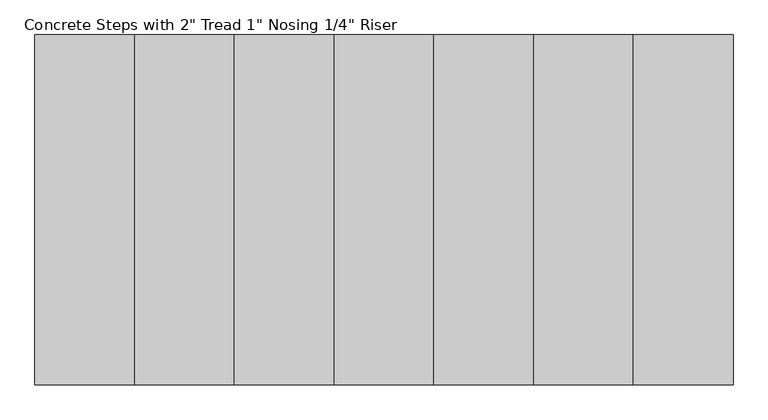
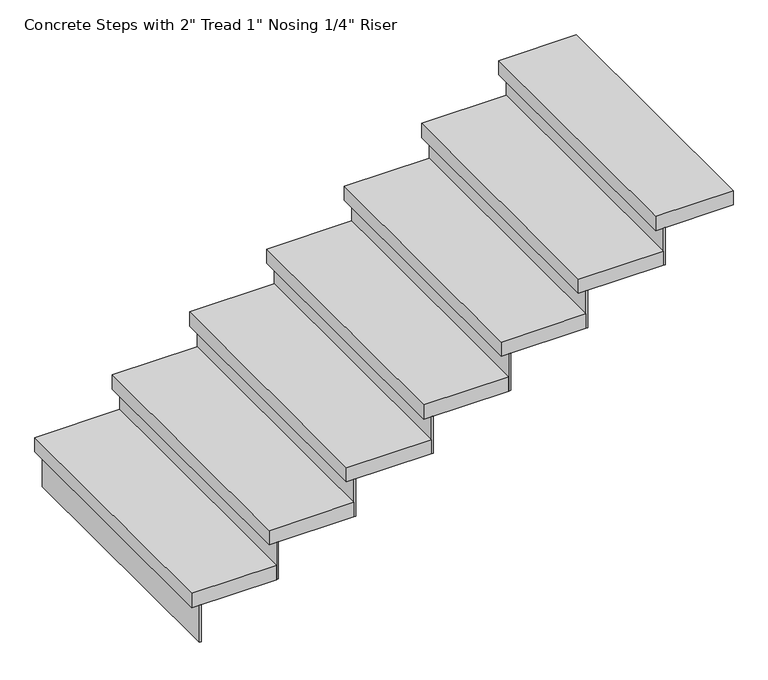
"""IFC4 building model written with IfcOpenShell, lengths in millimetres: stair flight geometry."""

from ifc_helpers import new_model, si_unit, frame, origin, place, context, project, spatial, polyline, outline, extrude, source, transform, mapped, element, save


def stair_flight_fc7d2e35(model_context):
    return source(origin(), model_context, "Body", "SweptSolid", [
        extrude(outline(polyline([(6350.1221922, 12968.7406645), (6343.7721922, 12968.7406645), (6343.7721922, 13883.1406645), (6350.1221922, 13883.1406645), (6350.1221922, 12968.7406645)])), frame((0.0, 0.0, 2069.5478261), z_axis=(0.0, 0.0, 1.0), x_axis=(1.0, 0.0, 0.0)), (0.0, 0.0, 1.0), 132.5217391),
        extrude(outline(polyline([(6604.1221922, 13883.1406645), (6604.1221922, 12968.7406645), (6318.3721922, 12968.7406645), (6318.3721922, 13883.1406645), (6604.1221922, 13883.1406645)])), frame((0.0, 0.0, 2202.0695652), z_axis=(0.0, 0.0, 1.0), x_axis=(1.0, 0.0, 0.0)), (0.0, 0.0, 1.0), 50.8),
        extrude(outline(polyline([(6610.4721922, 12968.7406645), (6604.1221922, 12968.7406645), (6604.1221922, 13883.1406645), (6610.4721922, 13883.1406645), (6610.4721922, 12968.7406645)])), frame((0.0, 0.0, 2202.0695652), z_axis=(0.0, 0.0, 1.0), x_axis=(1.0, 0.0, 0.0)), (0.0, 0.0, 1.0), 132.5217391),
        extrude(outline(polyline([(6864.4721922, 13883.1406645), (6864.4721922, 12968.7406645), (6578.7221922, 12968.7406645), (6578.7221922, 13883.1406645), (6864.4721922, 13883.1406645)])), frame((0.0, 0.0, 2334.5913043), z_axis=(0.0, 0.0, 1.0), x_axis=(1.0, 0.0, 0.0)), (0.0, 0.0, 1.0), 50.8),
        extrude(outline(polyline([(6870.8221922, 12968.7406645), (6864.4721922, 12968.7406645), (6864.4721922, 13883.1406645), (6870.8221922, 13883.1406645), (6870.8221922, 12968.7406645)])), frame((0.0, 0.0, 2334.5913043), z_axis=(0.0, 0.0, 1.0), x_axis=(1.0, 0.0, 0.0)), (0.0, 0.0, 1.0), 132.5217391),
        extrude(outline(polyline([(7124.8221922, 13883.1406645), (7124.8221922, 12968.7406645), (6839.0721922, 12968.7406645), (6839.0721922, 13883.1406645), (7124.8221922, 13883.1406645)])), frame((0.0, 0.0, 2467.1130435), z_axis=(0.0, 0.0, 1.0), x_axis=(1.0, 0.0, 0.0)), (0.0, 0.0, 1.0), 50.8),
        extrude(outline(polyline([(7131.1721922, 12968.7406645), (7124.8221922, 12968.7406645), (7124.8221922, 13883.1406645), (7131.1721922, 13883.1406645), (7131.1721922, 12968.7406645)])), frame((0.0, 0.0, 2467.1130435), z_axis=(0.0, 0.0, 1.0), x_axis=(1.0, 0.0, 0.0)), (0.0, 0.0, 1.0), 132.5217391),
        extrude(outline(polyline([(7385.1721922, 13883.1406645), (7385.1721922, 12968.7406645), (7099.4221922, 12968.7406645), (7099.4221922, 13883.1406645), (7385.1721922, 13883.1406645)])), frame((0.0, 0.0, 2599.6347826), z_axis=(0.0, 0.0, 1.0), x_axis=(1.0, 0.0, 0.0)), (0.0, 0.0, 1.0), 50.8),
        extrude(outline(polyline([(7391.5221922, 12968.7406645), (7385.1721922, 12968.7406645), (7385.1721922, 13883.1406645), (7391.5221922, 13883.1406645), (7391.5221922, 12968.7406645)])), frame((0.0, 0.0, 2599.6347826), z_axis=(0.0, 0.0, 1.0), x_axis=(1.0, 0.0, 0.0)), (0.0, 0.0, 1.0), 132.5217391),
        extrude(outline(polyline([(7645.5221922, 13883.1406645), (7645.5221922, 12968.7406645), (7359.7721922, 12968.7406645), (7359.7721922, 13883.1406645), (7645.5221922, 13883.1406645)])), frame((0.0, 0.0, 2732.1565217), z_axis=(0.0, 0.0, 1.0), x_axis=(1.0, 0.0, 0.0)), (0.0, 0.0, 1.0), 50.8),
        extrude(outline(polyline([(7651.8721922, 12968.7406645), (7645.5221922, 12968.7406645), (7645.5221922, 13883.1406645), (7651.8721922, 13883.1406645), (7651.8721922, 12968.7406645)])), frame((0.0, 0.0, 2732.1565217), z_axis=(0.0, 0.0, 1.0), x_axis=(1.0, 0.0, 0.0)), (0.0, 0.0, 1.0), 132.5217391),
        extrude(outline(polyline([(7905.8721922, 13883.1406645), (7905.8721922, 12968.7406645), (7620.1221922, 12968.7406645), (7620.1221922, 13883.1406645), (7905.8721922, 13883.1406645)])), frame((0.0, 0.0, 2864.6782609), z_axis=(0.0, 0.0, 1.0), x_axis=(1.0, 0.0, 0.0)), (0.0, 0.0, 1.0), 50.8),
        extrude(outline(polyline([(7912.2221922, 12968.7406645), (7905.8721922, 12968.7406645), (7905.8721922, 13883.1406645), (7912.2221922, 13883.1406645), (7912.2221922, 12968.7406645)])), frame((0.0, 0.0, 2864.6782609), z_axis=(0.0, 0.0, 1.0), x_axis=(1.0, 0.0, 0.0)), (0.0, 0.0, 1.0), 132.5217391),
        extrude(outline(polyline([(8140.8221922, 13883.1406645), (8140.8221922, 12968.7406645), (7880.4721922, 12968.7406645), (7880.4721922, 13883.1406645), (8140.8221922, 13883.1406645)])), frame((0.0, 0.0, 2997.2), z_axis=(0.0, 0.0, 1.0), x_axis=(1.0, 0.0, 0.0)), (0.0, 0.0, 1.0), 50.8),
    ])


if __name__ == "__main__":
    model = new_model("IFC4")
    model_context = context("Model", 3, world=origin())
    ifc_project = project(units=[si_unit("LENGTHUNIT", "METRE", prefix="MILLI")], contexts=[model_context])
    site = spatial("IfcSite", under=ifc_project)
    building = spatial("IfcBuilding", under=site)
    placement = place(None, origin())
    stair_flight_shape = stair_flight_fc7d2e35(model_context)
    element("IfcStairFlight", 1, ObjectType="Concrete Steps with 2\" Tread 1\" Nosing 1/4\" Riser", at=placement, inside=building, context=model_context, shape_type="MappedRepresentation", body=[
        mapped(stair_flight_shape, transform((0.0, 0.0, 0.0), x_axis=(1.0, 0.0, 0.0), y_axis=(0.0, 1.0, 0.0), z_axis=(0.0, 0.0, 1.0))),
    ])
    save(model, "model.ifc")
